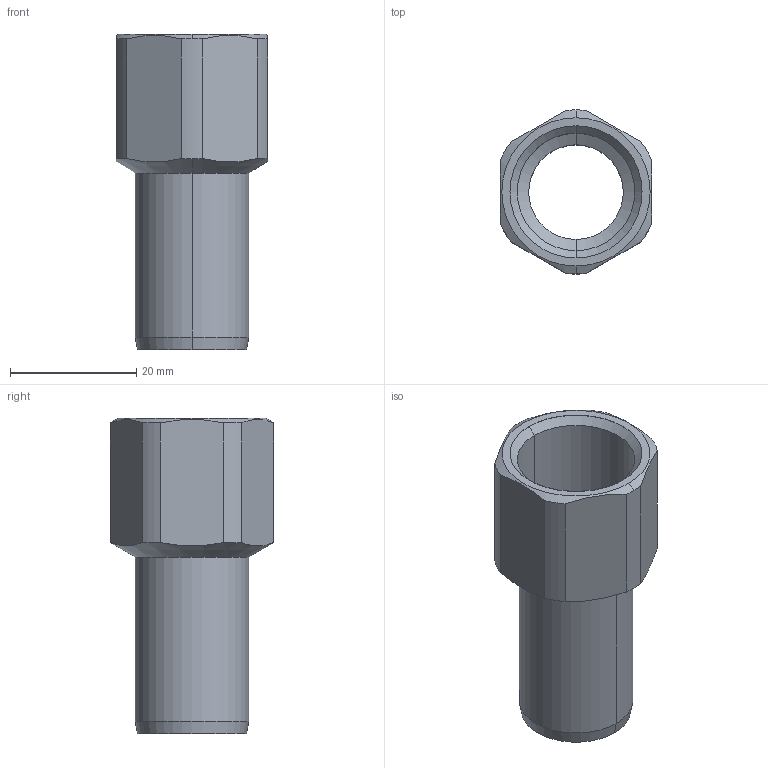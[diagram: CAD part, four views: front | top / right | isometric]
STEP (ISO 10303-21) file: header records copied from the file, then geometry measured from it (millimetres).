
FILE_DESCRIPTION(('OneSpaceDesigner STEP Export'),'2;1');
FILE_NAME('C1433 18xRp1-2.stp','2010-06-15T16:41:38',(''),(''),'OneSpace Designer STEP processor for AP214 (Solid Model)','OneSpace Modeling 15.00A 14-Mar-2007 (C) CoCreate Software GmbH','');
FILE_SCHEMA(('AUTOMOTIVE_DESIGN { 1 0 10303 214 1 1 1 1 }'));
Length unit declared in the file: millimetre
Products named in the file (1): C1433_18xRp1-2
Bounding box: 24 x 26 x 50 mm (x, y, z)
Volume: 6906.8 mm3; surface area: 6298.7 mm2
Topology: 1 solids, 1 shells, 32 faces, 78 edges, 48 vertices
Faces by surface type: cylinder 14, cone 10, plane 8
Entity records: 1417 total; most frequent: CARTESIAN_POINT 712, ORIENTED_EDGE 156, DIRECTION 122, EDGE_CURVE 78, VERTEX_POINT 48, AXIS2_PLACEMENT_3D 46, EDGE_LOOP 34, FACE_OUTER_BOUND 32
